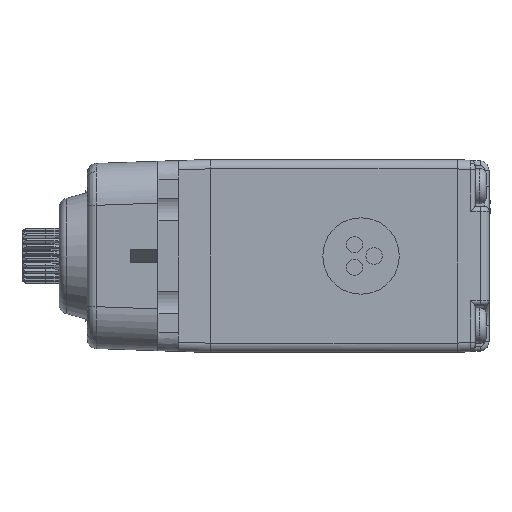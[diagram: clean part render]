
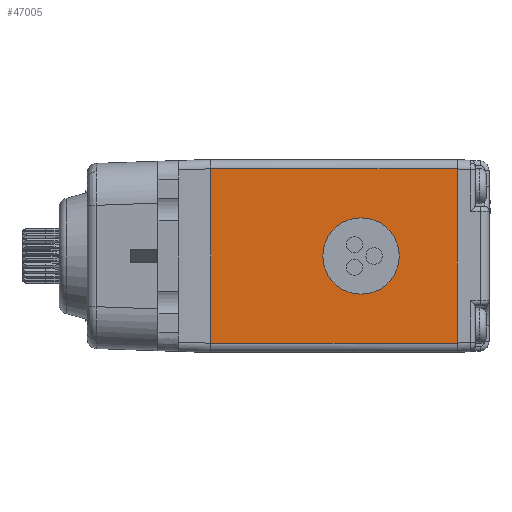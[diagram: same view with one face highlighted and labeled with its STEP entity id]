
A CAD part, left-side view. The second image highlights one B-rep face of the part: STEP entity #47005.
In plain terms, the highlighted planar face has unit normal (-1, 0, 0).
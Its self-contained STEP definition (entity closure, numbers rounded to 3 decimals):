
#259 = VECTOR ( 'NONE', #53377, 1000. ) ;
#342 = FACE_OUTER_BOUND ( 'NONE', #50904, .T. ) ;
#2624 = CARTESIAN_POINT ( 'NONE',  ( -10.3, -19.6, 0. ) ) ;
#7075 = VERTEX_POINT ( 'NONE', #21485 ) ;
#8669 = CARTESIAN_POINT ( 'NONE',  ( -10.3, -29.95, -9.35 ) ) ;
#12241 = VERTEX_POINT ( 'NONE', #68983 ) ;
#15210 = ORIENTED_EDGE ( 'NONE', *, *, #28504, .T. ) ;
#18019 = ORIENTED_EDGE ( 'NONE', *, *, #55953, .F. ) ;
#19853 = EDGE_CURVE ( 'NONE', #70840, #7075, #58341, .T. ) ;
#20377 = DIRECTION ( 'NONE',  ( 0., -1., 0. ) ) ;
#20414 = DIRECTION ( 'NONE',  ( 1., 0., 0. ) ) ;
#20537 = DIRECTION ( 'NONE',  ( 0., 0., 1. ) ) ;
#21485 = CARTESIAN_POINT ( 'NONE',  ( -10.3, -3.45, -9.36 ) ) ;
#21677 = DIRECTION ( 'NONE',  ( 0., 0., 1. ) ) ;
#26333 = CARTESIAN_POINT ( 'NONE',  ( -10.3, -23.7, 0. ) ) ;
#27592 = VERTEX_POINT ( 'NONE', #75733 ) ;
#28504 = EDGE_CURVE ( 'NONE', #12241, #70448, #33394, .T. ) ;
#31876 = PLANE ( 'NONE',  #67282 ) ;
#32989 = DIRECTION ( 'NONE',  ( 0., 1., 0. ) ) ;
#33394 = LINE ( 'NONE', #62663, #74234 ) ;
#33566 = CARTESIAN_POINT ( 'NONE',  ( -10.3, -29.95, 9.35 ) ) ;
#33718 = CARTESIAN_POINT ( 'NONE',  ( -10.3, -29.927, 9.35 ) ) ;
#33744 = VECTOR ( 'NONE', #64620, 1000. ) ;
#34697 = VERTEX_POINT ( 'NONE', #71509 ) ;
#35077 = ORIENTED_EDGE ( 'NONE', *, *, #48674, .F. ) ;
#35154 = LINE ( 'NONE', #59239, #259 ) ;
#35883 = CIRCLE ( 'NONE', #77433, 4.1 ) ;
#40503 = VECTOR ( 'NONE', #21677, 1000. ) ;
#40894 = EDGE_LOOP ( 'NONE', ( #18019 ) ) ;
#44559 = DIRECTION ( 'NONE',  ( 0., 0., 1. ) ) ;
#47005 = ADVANCED_FACE ( 'NONE', ( #342, #61163 ), #31876, .F. ) ;
#47617 = CARTESIAN_POINT ( 'NONE',  ( -10.3, -3.45, 9.35 ) ) ;
#48674 = EDGE_CURVE ( 'NONE', #7075, #34697, #77544, .T. ) ;
#50649 = ORIENTED_EDGE ( 'NONE', *, *, #19853, .F. ) ;
#50904 = EDGE_LOOP ( 'NONE', ( #35077, #50649, #73952, #15210, #59739 ) ) ;
#53377 = DIRECTION ( 'NONE',  ( 0., 1., 0. ) ) ;
#53622 = CARTESIAN_POINT ( 'NONE',  ( -10.3, -29.95, -9.35 ) ) ;
#55953 = EDGE_CURVE ( 'NONE', #27592, #27592, #35883, .T. ) ;
#57558 = DIRECTION ( 'NONE',  ( -1., 0., 0. ) ) ;
#58341 = LINE ( 'NONE', #53622, #33744 ) ;
#59239 = CARTESIAN_POINT ( 'NONE',  ( -10.3, -29.95, 9.35 ) ) ;
#59739 = ORIENTED_EDGE ( 'NONE', *, *, #68344, .T. ) ;
#61163 = FACE_BOUND ( 'NONE', #40894, .T. ) ;
#62514 = VECTOR ( 'NONE', #20537, 1000. ) ;
#62663 = CARTESIAN_POINT ( 'NONE',  ( -10.3, -29.95, 9.35 ) ) ;
#64620 = DIRECTION ( 'NONE',  ( 0., 1., 0. ) ) ;
#67270 = EDGE_CURVE ( 'NONE', #70840, #12241, #68699, .T. ) ;
#67282 = AXIS2_PLACEMENT_3D ( 'NONE', #26333, #20414, #44559 ) ;
#68344 = EDGE_CURVE ( 'NONE', #70448, #34697, #35154, .T. ) ;
#68699 = LINE ( 'NONE', #33566, #40503 ) ;
#68983 = CARTESIAN_POINT ( 'NONE',  ( -10.3, -29.95, 9.351 ) ) ;
#70448 = VERTEX_POINT ( 'NONE', #33718 ) ;
#70840 = VERTEX_POINT ( 'NONE', #8669 ) ;
#71509 = CARTESIAN_POINT ( 'NONE',  ( -10.3, -3.45, 9.36 ) ) ;
#73952 = ORIENTED_EDGE ( 'NONE', *, *, #67270, .T. ) ;
#74234 = VECTOR ( 'NONE', #32989, 1000. ) ;
#75733 = CARTESIAN_POINT ( 'NONE',  ( -10.3, -23.7, 0. ) ) ;
#77433 = AXIS2_PLACEMENT_3D ( 'NONE', #2624, #57558, #20377 ) ;
#77544 = LINE ( 'NONE', #47617, #62514 ) ;
